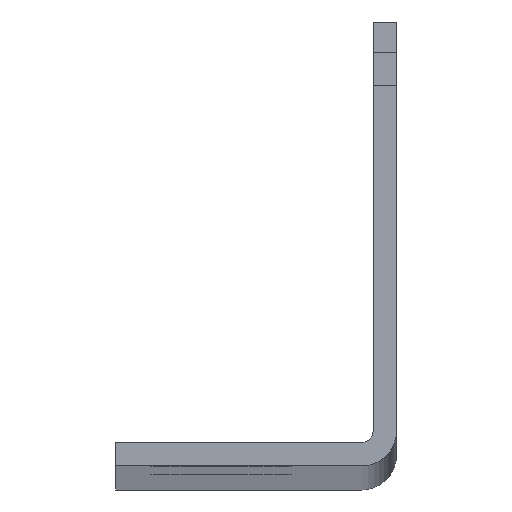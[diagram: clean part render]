
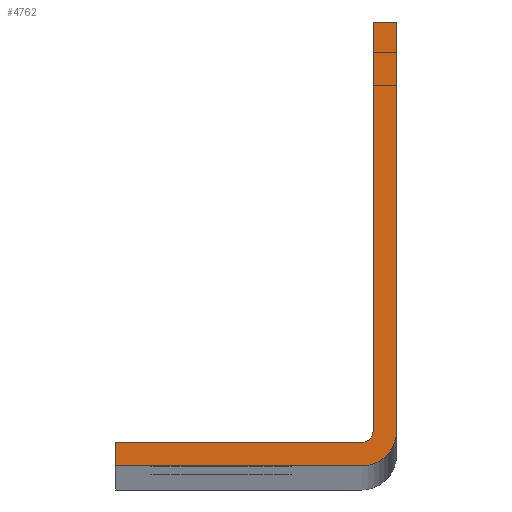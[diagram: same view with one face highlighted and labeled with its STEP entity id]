
A CAD part, top view. The second image highlights one B-rep face of the part: STEP entity #4762.
In plain terms, the highlighted planar face has unit normal (0, 0, 1).
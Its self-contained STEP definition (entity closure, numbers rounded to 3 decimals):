
#542=CIRCLE('',#5358,4.699);
#543=CIRCLE('',#5359,1.524);
#1250=ORIENTED_EDGE('',*,*,#2178,.F.);
#1251=ORIENTED_EDGE('',*,*,#2179,.F.);
#1252=ORIENTED_EDGE('',*,*,#1927,.F.);
#1253=ORIENTED_EDGE('',*,*,#2180,.T.);
#1254=ORIENTED_EDGE('',*,*,#2144,.T.);
#1255=ORIENTED_EDGE('',*,*,#2181,.T.);
#1256=ORIENTED_EDGE('',*,*,#2182,.T.);
#1257=ORIENTED_EDGE('',*,*,#2183,.T.);
#1927=EDGE_CURVE('',#2515,#2512,#2835,.T.);
#2144=EDGE_CURVE('',#2733,#2732,#2882,.T.);
#2178=EDGE_CURVE('',#2764,#2765,#2900,.T.);
#2179=EDGE_CURVE('',#2512,#2764,#542,.T.);
#2180=EDGE_CURVE('',#2515,#2733,#2901,.T.);
#2181=EDGE_CURVE('',#2732,#2766,#543,.F.);
#2182=EDGE_CURVE('',#2766,#2767,#2902,.T.);
#2183=EDGE_CURVE('',#2767,#2765,#2903,.T.);
#2512=VERTEX_POINT('',#7298);
#2515=VERTEX_POINT('',#7303);
#2732=VERTEX_POINT('',#7738);
#2733=VERTEX_POINT('',#7740);
#2764=VERTEX_POINT('',#7930);
#2765=VERTEX_POINT('',#7931);
#2766=VERTEX_POINT('',#7935);
#2767=VERTEX_POINT('',#7937);
#2835=LINE('',#7304,#3063);
#2882=LINE('',#7739,#3110);
#2900=LINE('',#7929,#3128);
#2901=LINE('',#7933,#3129);
#2902=LINE('',#7936,#3130);
#2903=LINE('',#7938,#3131);
#3063=VECTOR('',#5840,1000.);
#3110=VECTOR('',#6229,1000.);
#3128=VECTOR('',#6529,1000.);
#3129=VECTOR('',#6532,1000.);
#3130=VECTOR('',#6535,1000.);
#3131=VECTOR('',#6536,1000.);
#3791=EDGE_LOOP('',(#1250,#1251,#1252,#1253,#1254,#1255,#1256,#1257));
#4451=FACE_BOUND('',#3791,.T.);
#4579=PLANE('',#5357);
#4762=ADVANCED_FACE('',(#4451),#4579,.T.);
#5357=AXIS2_PLACEMENT_3D('',#7928,#6527,#6528);
#5358=AXIS2_PLACEMENT_3D('',#7932,#6530,#6531);
#5359=AXIS2_PLACEMENT_3D('',#7934,#6533,#6534);
#5840=DIRECTION('',(0.,-1.,0.));
#6229=DIRECTION('',(0.,-1.,0.));
#6527=DIRECTION('',(0.,0.,1.));
#6528=DIRECTION('',(1.,0.,0.));
#6529=DIRECTION('',(-1.,0.,0.));
#6530=DIRECTION('',(0.,0.,-1.));
#6531=DIRECTION('',(0.,1.,0.));
#6532=DIRECTION('',(-1.,0.,0.));
#6533=DIRECTION('',(0.,0.,1.));
#6534=DIRECTION('',(1.,0.,0.));
#6535=DIRECTION('',(-1.,0.,0.));
#6536=DIRECTION('',(0.,-1.,0.));
#7298=CARTESIAN_POINT('',(19.05,4.699,933.45));
#7303=CARTESIAN_POINT('',(19.05,60.223,933.45));
#7304=CARTESIAN_POINT('',(19.05,2.806,933.45));
#7738=CARTESIAN_POINT('',(15.875,4.699,933.45));
#7739=CARTESIAN_POINT('',(15.875,2.806,933.45));
#7740=CARTESIAN_POINT('',(15.875,60.223,933.45));
#7928=CARTESIAN_POINT('',(19.05,3.175,933.45));
#7929=CARTESIAN_POINT('',(19.05,0.,933.45));
#7930=CARTESIAN_POINT('',(14.351,0.,933.45));
#7931=CARTESIAN_POINT('',(-19.05,0.,933.45));
#7932=CARTESIAN_POINT('',(14.351,4.699,933.45));
#7933=CARTESIAN_POINT('',(19.05,60.223,933.45));
#7934=CARTESIAN_POINT('',(14.351,4.699,933.45));
#7935=CARTESIAN_POINT('',(14.351,3.175,933.45));
#7936=CARTESIAN_POINT('',(19.05,3.175,933.45));
#7937=CARTESIAN_POINT('',(-19.05,3.175,933.45));
#7938=CARTESIAN_POINT('',(-19.05,3.175,933.45));
